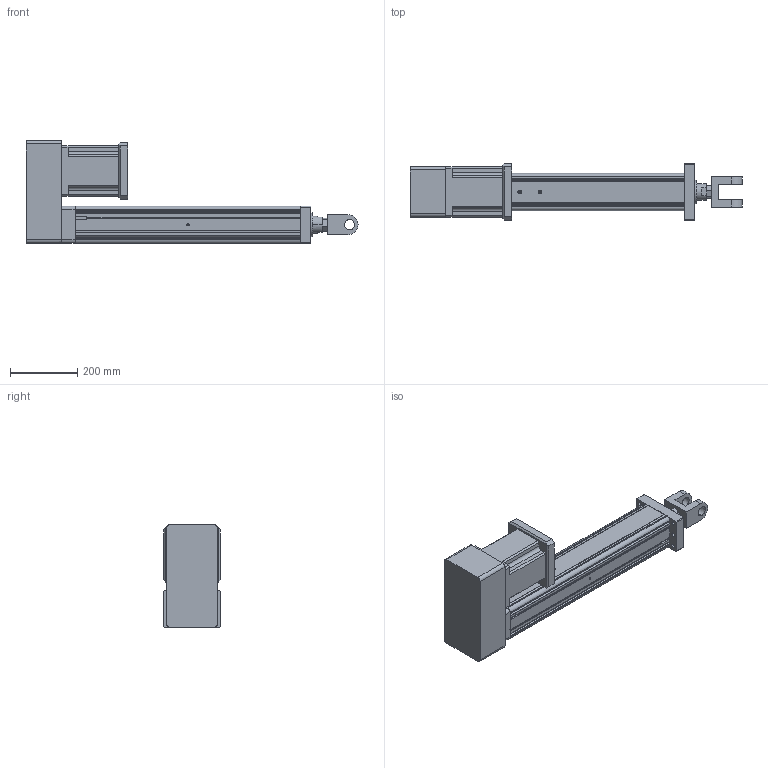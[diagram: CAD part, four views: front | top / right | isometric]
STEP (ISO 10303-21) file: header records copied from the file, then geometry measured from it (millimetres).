
FILE_DESCRIPTION (( 'STEP AP203' ), '1' );
FILE_NAME ('YRJ110-L500-H3K4.STEP', '2020-01-04T06:37:12', ( 'User' ), ( 'China' ), 'SwSTEP 2.0', 'SolidWorks 2016', '' );
FILE_SCHEMA (( 'CONFIG_CONTROL_DESIGN' ));
Length unit declared in the file: millimetre
Products named in the file (7): K4-110; YRJ110-L500-H3K4; 095-100俴最倰第; 萇儂碟-110; 142熬厒儂; H3-110-1; H3-110-2
Assembly tree (6 placements, depth 2):
  YRJ110-L500-H3K4
    095-100俴最倰第
    萇儂碟-110
    142熬厒儂
    H3-110-1
    H3-110-2
    K4-110
Bounding box: 986 x 170 x 305.5 mm (x, y, z)
Volume: 12961240.3 mm3; surface area: 1118365.4 mm2
Topology: 6 solids, 6 shells, 326 faces, 904 edges, 585 vertices
Faces by surface type: plane 179, cylinder 120, cone 27
Entity records: 11416 total; most frequent: CARTESIAN_POINT 2148, DIRECTION 1791, ORIENTED_EDGE 1776, EDGE_CURVE 888, LINE 611, VECTOR 611, AXIS2_PLACEMENT_3D 590, VERTEX_POINT 585
